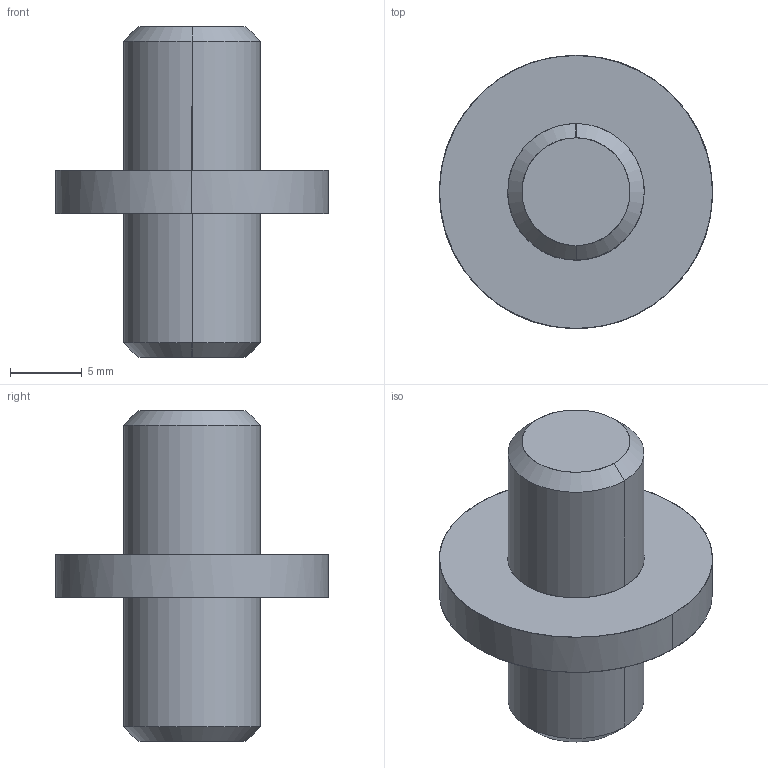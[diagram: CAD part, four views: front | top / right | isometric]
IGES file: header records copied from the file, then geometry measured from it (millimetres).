
Global section: file name: E:\UnigraphicsGraphicData\MISUMI_PRESS-PARTS\IGES\3d_sswc19_00822_r00.igs; native system: NX V5.0; preprocessor: UGS NX IGES V5.0; author: MISUMI; date: 20110105.163200; units: millimetre
Bounding box: 19 x 19 x 23 mm (x, y, z)
Surface area: 1307.2 mm2 (no closed solid volume)
Topology: 0 solids, 0 shells, 14 faces, 88 edges, 88 vertices
Faces by surface type: bspline 14
